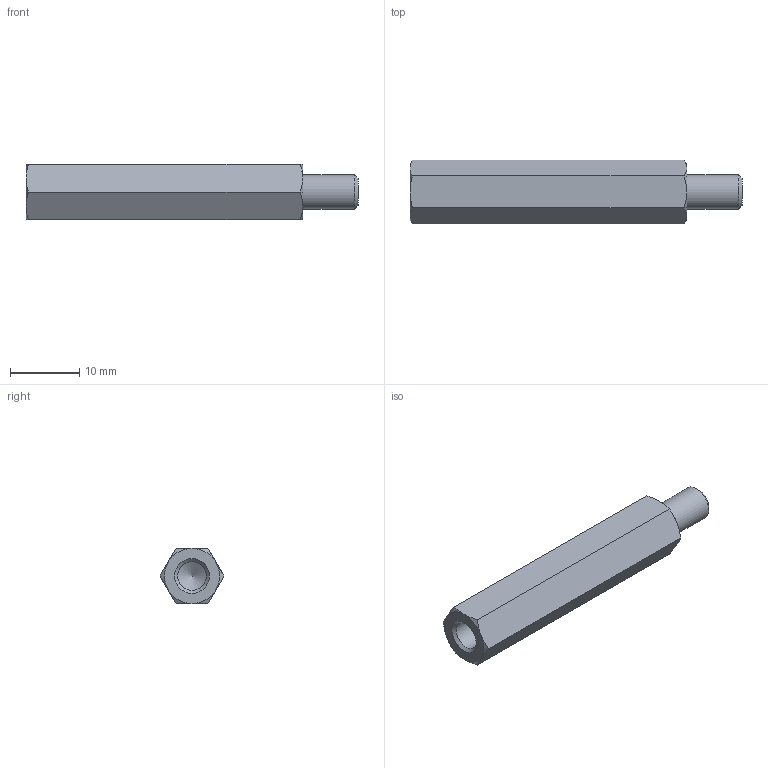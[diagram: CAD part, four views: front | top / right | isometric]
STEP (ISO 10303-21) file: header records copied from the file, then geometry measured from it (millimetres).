
FILE_DESCRIPTION( ( 'STEP AP203' ), '1' );
FILE_NAME( 'C:/Temp/Ganter_Step_05_03_2020/data/3_2/gn6220/gn6220_st/Spacer GN 6220-ST-M5-40-B.stp', '2020-03-13T05:42:44', ( 'License CC BY-ND 4.0' ), ( 'CADENAS' ), ' ', 'PARTsolutions', ' ' );
FILE_SCHEMA( ( 'CONFIG_CONTROL_DESIGN' ) );
Length unit declared in the file: millimetre
Products named in the file (1): _Spacer GN 6220-ST-M5-40-B
Bounding box: 48 x 9.24 x 8 mm (x, y, z)
Volume: 2173.8 mm3; surface area: 1518.6 mm2
Topology: 1 solids, 1 shells, 26 faces, 55 edges, 32 vertices
Faces by surface type: cone 15, plane 9, cylinder 2
Full cylindrical faces by diameter (mm): 4.134 x1, 5 x1
Entity records: 746 total; most frequent: CARTESIAN_POINT 210, DIRECTION 96, ORIENTED_EDGE 96, EDGE_CURVE 48, AXIS2_PLACEMENT_3D 45, EDGE_LOOP 32, VERTEX_POINT 31, FACE_OUTER_BOUND 28
